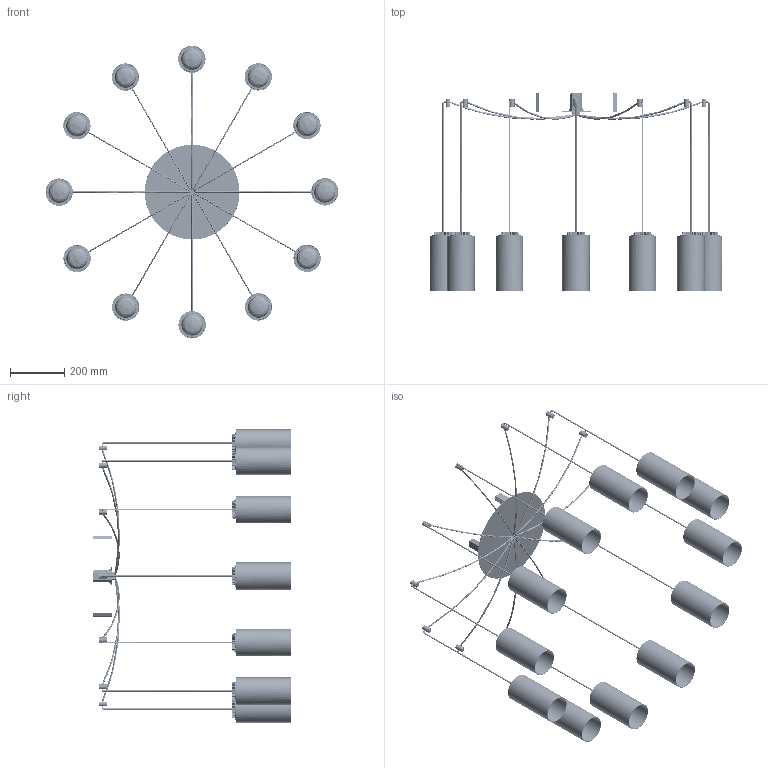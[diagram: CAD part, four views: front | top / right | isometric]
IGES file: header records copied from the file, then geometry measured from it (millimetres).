
Start section: SolidWorks IGES file using NURBS representation for surfaces
Global section: file name: C:\Users\aitor.torredeflot\Desktop\3D WEB (miscel·laniuos)\files 3D\Cirio Multiple (empotrable).IGS; native system: SolidWorks 2016; preprocessor: SolidWorks 2016; author: aitor.torredeflot; date: 170713.163409; units: millimetre
Bounding box: 1083.33 x 734 x 1083.33 mm (x, y, z)
Surface area: 2708930.7 mm2 (no closed solid volume)
Topology: 0 solids, 0 shells, 6505 faces, 54497 edges, 54354 vertices
Faces by surface type: bspline 6505
